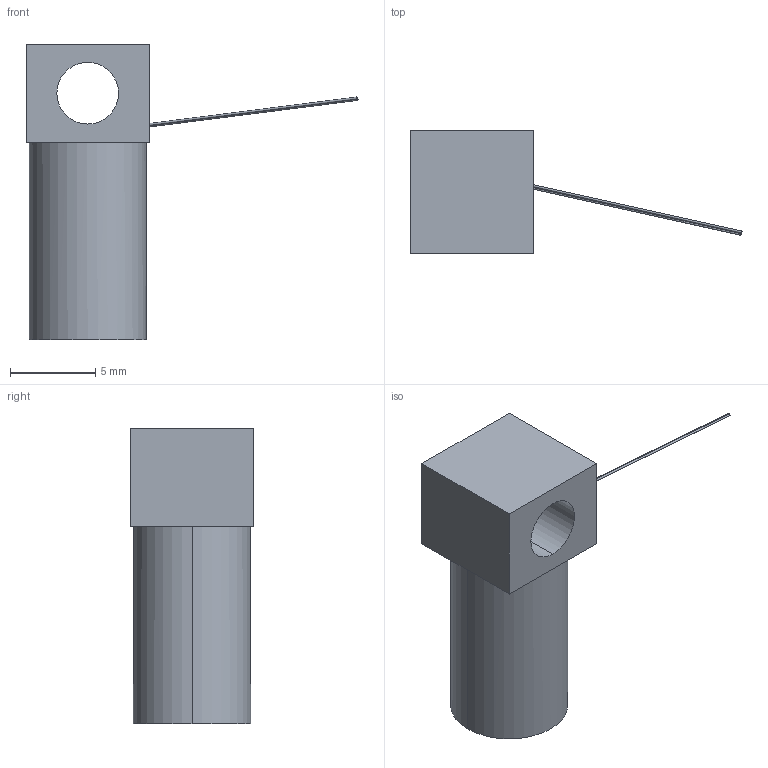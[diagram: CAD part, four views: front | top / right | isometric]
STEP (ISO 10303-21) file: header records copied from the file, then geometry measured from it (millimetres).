
FILE_DESCRIPTION (( 'STEP AP203' ), '1' );
FILE_NAME ('RX-102B-RSdefeature.STEP', '2021-03-10T15:44:18', ( '' ), ( '' ), 'SwSTEP 2.0', 'SolidWorks 2020', '' );
FILE_SCHEMA (( 'CONFIG_CONTROL_DESIGN' ));
Length unit declared in the file: millimetre
Products named in the file (1): RX-102B-RSdefeature
Bounding box: 19.42 x 7.21 x 17.3 mm (x, y, z)
Volume: 649.4 mm3; surface area: 597.5 mm2
Topology: 2 solids, 2 shells, 30 faces, 70 edges, 46 vertices
Faces by surface type: plane 13, bspline 10, cylinder 7
Entity records: 1212 total; most frequent: CARTESIAN_POINT 498, ORIENTED_EDGE 140, DIRECTION 124, EDGE_CURVE 70, AXIS2_PLACEMENT_3D 49, VERTEX_POINT 46, EDGE_LOOP 34, ADVANCED_FACE 30
